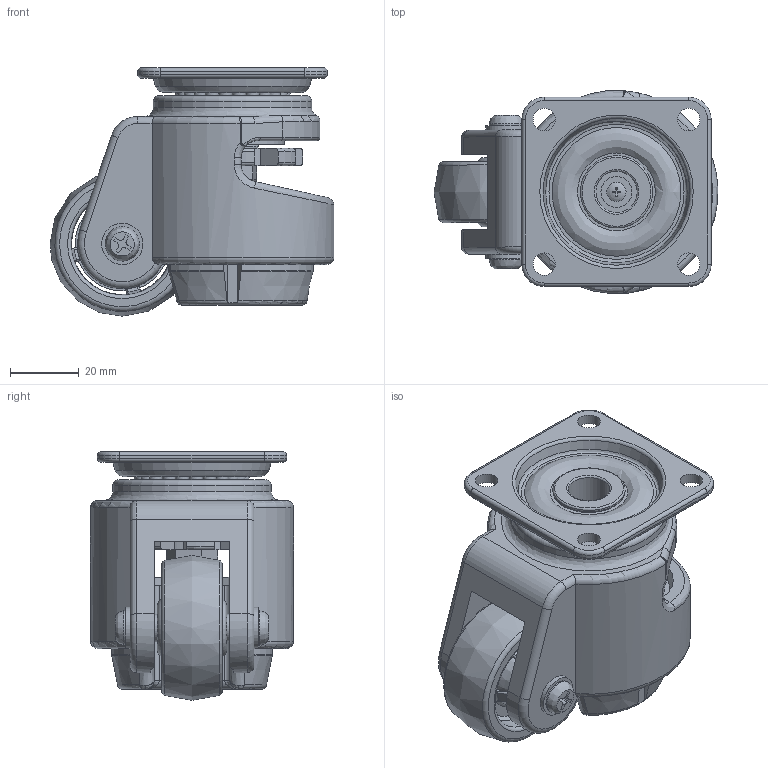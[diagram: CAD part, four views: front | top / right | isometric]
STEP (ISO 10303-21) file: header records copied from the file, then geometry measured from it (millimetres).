
FILE_DESCRIPTION((''),'2;1');
FILE_NAME('E:\catalogue and flyer\Profile catalogue 2015\Accessories- FM & wheel\foot mout & wheel stp file\AC-50F.stp','2016-04-08T11:41:16',('h029'),(''),'Autodesk Inventor 11','Autodesk Inventor 11','');
FILE_SCHEMA(('AUTOMOTIVE_DESIGN { 1 0 10303 214 1 1 1 1 }'));
Length unit declared in the file: millimetre
Products named in the file (3): AC-50F; AC-50F_1; AC-50F_2
Assembly tree (2 placements, depth 2):
  AC-50F
    AC-50F_1
    AC-50F_2
Bounding box: 82.47 x 58.99 x 72.16 mm (x, y, z)
Volume: 131967.2 mm3; surface area: 54346.9 mm2
Topology: 25 solids, 28 shells, 632 faces, 1633 edges, 997 vertices
Faces by surface type: plane 216, cylinder 201, torus 87, bspline 54, sphere 45, cone 29
Full cylindrical faces by diameter (mm): 2.5 x1, 3.4 x1, 4.917 x1, 5.2 x1, 5.6 x1, 6 x2, 6.5 x4, 6.647 x1, 8 x2, 8.2 x1, 9 x3, 10 x2, 12 x3, 14.5 x1, 15 x1, 15.2 x1, 21 x1, 22 x1, 24 x1, 30 x1, 32.2 x1, 46 x1
Entity records: 24014 total; most frequent: CARTESIAN_POINT 9685, DIRECTION 3074, ORIENTED_EDGE 2832, EDGE_CURVE 1416, AXIS2_PLACEMENT_3D 1237, VERTEX_POINT 929, EDGE_LOOP 758, FACE_OUTER_BOUND 632
